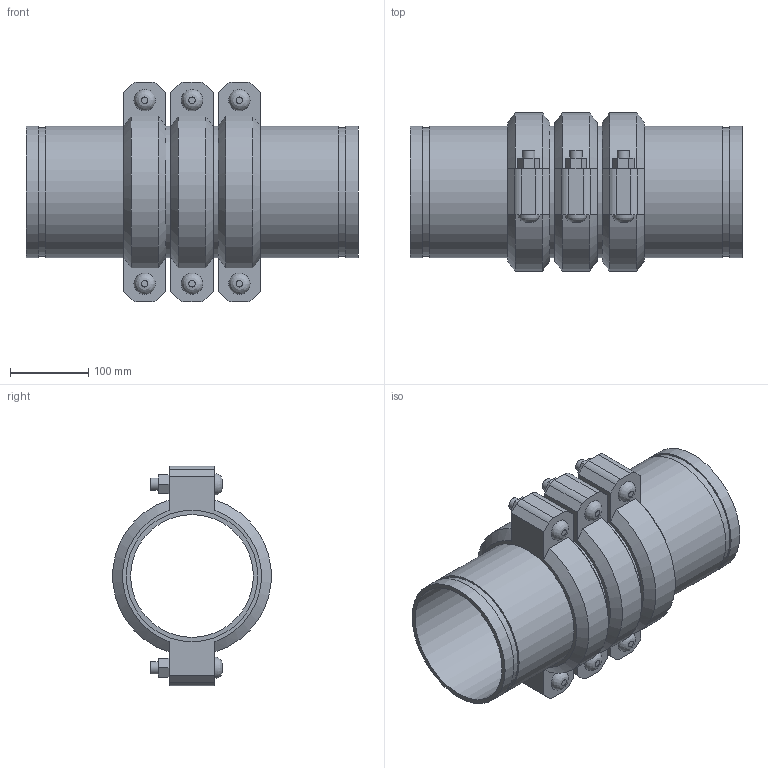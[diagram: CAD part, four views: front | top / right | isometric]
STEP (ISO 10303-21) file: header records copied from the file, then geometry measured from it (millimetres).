
FILE_DESCRIPTION(/* description */ ('VIC EXPANSION JOINT 3 COUPLINGS COMPRESSED STYLE 155 (OGS)','CAx-IF Rec.Pracs.---Representation and Presentation of Product Manufacturing Information (PMI)---4.0---2014-10-13'),/* implementation_level */ '2;1');
FILE_NAME(/* name */ 'C:\Users\kkamble\AppData\Roaming\Autodesk\ApplicationPlugins\Victaulic.Temp\A971\Victaulic_IPS_Expansion Joint_Compressed_3 Couplings_Style 155 (OGS)_6 (150).stp',/* time_stamp */ '2021-06-27T00:25:47+02:00',/* author */ ('kkamble'),/* organization */ ('Victaulic'),/* preprocessor_version */ 'ST-DEVELOPER v17.2',/* originating_system */ 'Autodesk Inventor 2019',/* authorisation */ '');
FILE_SCHEMA (('AP242_MANAGED_MODEL_BASED_3D_ENGINEERING_MIM_LF { 1 0 10303 442 1 1 4 }'));
Length unit declared in the file: inch
Products named in the file (4): 155-06.0; Nipple-06.0; Nipple-06.0_1; 075_3_Coup-06.0
Assembly tree (7 placements, depth 2):
  155-06.0
    Nipple-06.0  x2
    Nipple-06.0_1  x2
    075_3_Coup-06.0  x3
Bounding box: 424.94 x 202.46 x 281.18 mm (x, y, z)
Volume: 3369388.2 mm3; surface area: 812320.4 mm2
Topology: 7 solids, 13 shells, 219 faces, 519 edges, 366 vertices
Faces by surface type: plane 132, cylinder 69, cone 12, bspline 6
Full cylindrical faces by diameter (mm): 15.875 x12, 17.424 x6, 157.15 x4, 161.925 x3, 163.957 x8, 168.275 x18
Entity records: 2778 total; most frequent: CARTESIAN_POINT 491, DIRECTION 457, ORIENTED_EDGE 386, EDGE_CURVE 193, AXIS2_PLACEMENT_3D 182, VERTEX_POINT 138, EDGE_LOOP 107, LINE 93
